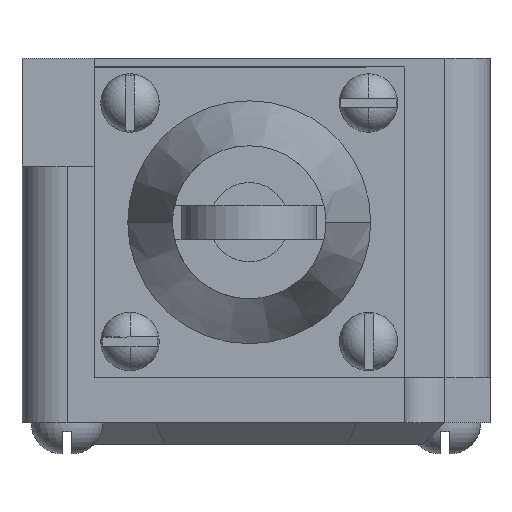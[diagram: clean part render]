
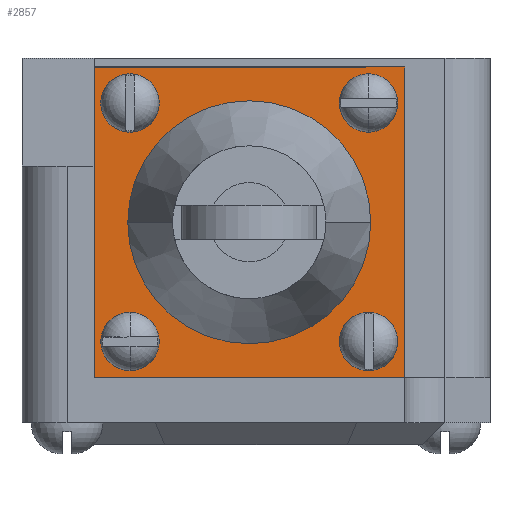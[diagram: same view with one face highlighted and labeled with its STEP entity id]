
A CAD part, front view. The second image highlights one B-rep face of the part: STEP entity #2857.
In plain terms, the highlighted planar face has unit normal (0, -1, 0).
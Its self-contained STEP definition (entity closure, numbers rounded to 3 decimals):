
#38 = CARTESIAN_POINT ( 'NONE',  ( -14., -40., 38.75 ) ) ;
#49 = CARTESIAN_POINT ( 'NONE',  ( -14., -40., 32.25 ) ) ;
#63 = CARTESIAN_POINT ( 'NONE',  ( -18., -40., 39.5 ) ) ;
#73 = CARTESIAN_POINT ( 'NONE',  ( -18., -40., 5. ) ) ;
#76 = CARTESIAN_POINT ( 'NONE',  ( 16.5, -40., 39.5 ) ) ;
#77 = CARTESIAN_POINT ( 'NONE',  ( 16.5, -40., 5. ) ) ;
#86 = CARTESIAN_POINT ( 'NONE',  ( 12.5, -40., 5.75 ) ) ;
#88 = CARTESIAN_POINT ( 'NONE',  ( -14., -40., 12.25 ) ) ;
#91 = CARTESIAN_POINT ( 'NONE',  ( -14., -40., 5.75 ) ) ;
#137 = CARTESIAN_POINT ( 'NONE',  ( 12.5, -40., 12.25 ) ) ;
#420 = CARTESIAN_POINT ( 'NONE',  ( 12.5, -40., 32.25 ) ) ;
#450 = CARTESIAN_POINT ( 'NONE',  ( 12.5, -40., 38.75 ) ) ;
#517 = AXIS2_PLACEMENT_3D ( 'NONE', #3321, #3322, #3318 ) ;
#565 = AXIS2_PLACEMENT_3D ( 'NONE', #1236, #1244, #1234 ) ;
#590 = AXIS2_PLACEMENT_3D ( 'NONE', #683, #682, #681 ) ;
#591 = AXIS2_PLACEMENT_3D ( 'NONE', #678, #677, #676 ) ;
#592 = AXIS2_PLACEMENT_3D ( 'NONE', #673, #672, #671 ) ;
#593 = AXIS2_PLACEMENT_3D ( 'NONE', #663, #662, #661 ) ;
#594 = AXIS2_PLACEMENT_3D ( 'NONE', #660, #659, #658 ) ;
#603 = AXIS2_PLACEMENT_3D ( 'NONE', #3509, #3510, #3511 ) ;
#606 = AXIS2_PLACEMENT_3D ( 'NONE', #3533, #3534, #3535 ) ;
#610 = AXIS2_PLACEMENT_3D ( 'NONE', #3575, #3576, #3577 ) ;
#658 = DIRECTION ( 'NONE',  ( 0., 0., 1. ) ) ;
#659 = DIRECTION ( 'NONE',  ( 0., -1., 0. ) ) ;
#660 = CARTESIAN_POINT ( 'NONE',  ( -14., -40., 9. ) ) ;
#661 = DIRECTION ( 'NONE',  ( 0., 0., 1. ) ) ;
#662 = DIRECTION ( 'NONE',  ( 0., -1., 0. ) ) ;
#663 = CARTESIAN_POINT ( 'NONE',  ( 12.5, -40., 35.5 ) ) ;
#666 = DIRECTION ( 'NONE',  ( 0., 0., -1. ) ) ;
#667 = CARTESIAN_POINT ( 'NONE',  ( -18., -40., 39.5 ) ) ;
#668 = DIRECTION ( 'NONE',  ( 1., 0., 0. ) ) ;
#669 = CARTESIAN_POINT ( 'NONE',  ( -18., -40., 5. ) ) ;
#670 = DIRECTION ( 'NONE',  ( 0., 0., 1. ) ) ;
#671 = DIRECTION ( 'NONE',  ( 0., 0., -1. ) ) ;
#672 = DIRECTION ( 'NONE',  ( 0., -1., 0. ) ) ;
#673 = CARTESIAN_POINT ( 'NONE',  ( -14., -40., 35.5 ) ) ;
#674 = CARTESIAN_POINT ( 'NONE',  ( 16.5, -40., 39.5 ) ) ;
#676 = DIRECTION ( 'NONE',  ( 0., 0., -1. ) ) ;
#677 = DIRECTION ( 'NONE',  ( 0., -1., 0. ) ) ;
#678 = CARTESIAN_POINT ( 'NONE',  ( 12.5, -40., 9. ) ) ;
#679 = DIRECTION ( 'NONE',  ( -1., 0., 0. ) ) ;
#680 = CARTESIAN_POINT ( 'NONE',  ( -18., -40., 39.5 ) ) ;
#681 = DIRECTION ( 'NONE',  ( 1., 0., 0. ) ) ;
#682 = DIRECTION ( 'NONE',  ( 0., -1., 0. ) ) ;
#683 = CARTESIAN_POINT ( 'NONE',  ( -0.75, -40., 22.25 ) ) ;
#1234 = DIRECTION ( 'NONE',  ( 0., 0., -1. ) ) ;
#1236 = CARTESIAN_POINT ( 'NONE',  ( 0., -40., 0. ) ) ;
#1237 = PLANE ( 'NONE',  #565 ) ;
#1244 = DIRECTION ( 'NONE',  ( 0., -1., 0. ) ) ;
#1762 = FACE_BOUND ( 'NONE', #3054, .T. ) ;
#1764 = FACE_BOUND ( 'NONE', #3043, .T. ) ;
#1766 = FACE_OUTER_BOUND ( 'NONE', #3055, .T. ) ;
#1767 = FACE_BOUND ( 'NONE', #3048, .T. ) ;
#1768 = FACE_BOUND ( 'NONE', #3053, .T. ) ;
#1769 = FACE_BOUND ( 'NONE', #3058, .T. ) ;
#1834 = CIRCLE ( 'NONE', #590, 13.5 ) ;
#1835 = CIRCLE ( 'NONE', #591, 3.25 ) ;
#1836 = LINE ( 'NONE', #674, #1842 ) ;
#1837 = CIRCLE ( 'NONE', #592, 3.25 ) ;
#1838 = LINE ( 'NONE', #680, #1840 ) ;
#1840 = VECTOR ( 'NONE', #679, 1000. ) ;
#1841 = LINE ( 'NONE', #669, #1844 ) ;
#1842 = VECTOR ( 'NONE', #670, 1000. ) ;
#1843 = LINE ( 'NONE', #667, #1846 ) ;
#1844 = VECTOR ( 'NONE', #668, 1000. ) ;
#1845 = CIRCLE ( 'NONE', #593, 3.25 ) ;
#1846 = VECTOR ( 'NONE', #666, 1000. ) ;
#1847 = CIRCLE ( 'NONE', #594, 3.25 ) ;
#1885 = CIRCLE ( 'NONE', #606, 3.25 ) ;
#1886 = CIRCLE ( 'NONE', #603, 3.25 ) ;
#1888 = CIRCLE ( 'NONE', #610, 3.25 ) ;
#2044 = CIRCLE ( 'NONE', #3234, 13.5 ) ;
#2287 = VERTEX_POINT ( 'NONE', #3354 ) ;
#2288 = VERTEX_POINT ( 'NONE', #3346 ) ;
#2398 = ORIENTED_EDGE ( 'NONE', *, *, #3175, .F. ) ;
#2399 = ORIENTED_EDGE ( 'NONE', *, *, #2933, .F. ) ;
#2400 = ORIENTED_EDGE ( 'NONE', *, *, #2934, .F. ) ;
#2401 = ORIENTED_EDGE ( 'NONE', *, *, #2966, .F. ) ;
#2402 = ORIENTED_EDGE ( 'NONE', *, *, #2935, .F. ) ;
#2403 = ORIENTED_EDGE ( 'NONE', *, *, #2444, .F. ) ;
#2404 = ORIENTED_EDGE ( 'NONE', *, *, #2936, .T. ) ;
#2405 = ORIENTED_EDGE ( 'NONE', *, *, #2937, .T. ) ;
#2406 = ORIENTED_EDGE ( 'NONE', *, *, #2938, .T. ) ;
#2407 = ORIENTED_EDGE ( 'NONE', *, *, #2939, .T. ) ;
#2408 = ORIENTED_EDGE ( 'NONE', *, *, #2976, .F. ) ;
#2409 = ORIENTED_EDGE ( 'NONE', *, *, #2940, .F. ) ;
#2410 = ORIENTED_EDGE ( 'NONE', *, *, #2970, .F. ) ;
#2411 = ORIENTED_EDGE ( 'NONE', *, *, #2941, .F. ) ;
#2444 = EDGE_CURVE ( 'NONE', #2685, #2692, #4254, .T. ) ;
#2648 = VERTEX_POINT ( 'NONE', #137 ) ;
#2651 = VERTEX_POINT ( 'NONE', #91 ) ;
#2652 = VERTEX_POINT ( 'NONE', #88 ) ;
#2654 = VERTEX_POINT ( 'NONE', #86 ) ;
#2660 = VERTEX_POINT ( 'NONE', #77 ) ;
#2661 = VERTEX_POINT ( 'NONE', #76 ) ;
#2662 = VERTEX_POINT ( 'NONE', #73 ) ;
#2672 = VERTEX_POINT ( 'NONE', #63 ) ;
#2685 = VERTEX_POINT ( 'NONE', #49 ) ;
#2692 = VERTEX_POINT ( 'NONE', #38 ) ;
#2718 = VERTEX_POINT ( 'NONE', #420 ) ;
#2719 = VERTEX_POINT ( 'NONE', #450 ) ;
#2857 = ADVANCED_FACE ( 'NONE', ( #1762, #1768, #1766, #1767, #1764, #1769 ), #1237, .T. ) ;
#2933 = EDGE_CURVE ( 'NONE', #2288, #2287, #1834, .T. ) ;
#2934 = EDGE_CURVE ( 'NONE', #2648, #2654, #1835, .T. ) ;
#2935 = EDGE_CURVE ( 'NONE', #2692, #2685, #1837, .T. ) ;
#2936 = EDGE_CURVE ( 'NONE', #2661, #2672, #1838, .T. ) ;
#2937 = EDGE_CURVE ( 'NONE', #2660, #2661, #1836, .T. ) ;
#2938 = EDGE_CURVE ( 'NONE', #2662, #2660, #1841, .T. ) ;
#2939 = EDGE_CURVE ( 'NONE', #2672, #2662, #1843, .T. ) ;
#2940 = EDGE_CURVE ( 'NONE', #2719, #2718, #1845, .T. ) ;
#2941 = EDGE_CURVE ( 'NONE', #2652, #2651, #1847, .T. ) ;
#2966 = EDGE_CURVE ( 'NONE', #2654, #2648, #1886, .T. ) ;
#2970 = EDGE_CURVE ( 'NONE', #2651, #2652, #1885, .T. ) ;
#2976 = EDGE_CURVE ( 'NONE', #2718, #2719, #1888, .T. ) ;
#3043 = EDGE_LOOP ( 'NONE', ( #2401, #2400 ) ) ;
#3048 = EDGE_LOOP ( 'NONE', ( #2403, #2402 ) ) ;
#3053 = EDGE_LOOP ( 'NONE', ( #2409, #2408 ) ) ;
#3054 = EDGE_LOOP ( 'NONE', ( #2411, #2410 ) ) ;
#3055 = EDGE_LOOP ( 'NONE', ( #2407, #2406, #2405, #2404 ) ) ;
#3058 = EDGE_LOOP ( 'NONE', ( #2399, #2398 ) ) ;
#3175 = EDGE_CURVE ( 'NONE', #2287, #2288, #2044, .T. ) ;
#3234 = AXIS2_PLACEMENT_3D ( 'NONE', #3961, #3962, #3963 ) ;
#3318 = DIRECTION ( 'NONE',  ( 0., 0., -1. ) ) ;
#3321 = CARTESIAN_POINT ( 'NONE',  ( -14., -40., 35.5 ) ) ;
#3322 = DIRECTION ( 'NONE',  ( 0., -1., 0. ) ) ;
#3346 = CARTESIAN_POINT ( 'NONE',  ( -14.25, -40., 22.25 ) ) ;
#3354 = CARTESIAN_POINT ( 'NONE',  ( 12.75, -40., 22.25 ) ) ;
#3509 = CARTESIAN_POINT ( 'NONE',  ( 12.5, -40., 9. ) ) ;
#3510 = DIRECTION ( 'NONE',  ( 0., -1., 0. ) ) ;
#3511 = DIRECTION ( 'NONE',  ( 0., 0., -1. ) ) ;
#3533 = CARTESIAN_POINT ( 'NONE',  ( -14., -40., 9. ) ) ;
#3534 = DIRECTION ( 'NONE',  ( 0., -1., 0. ) ) ;
#3535 = DIRECTION ( 'NONE',  ( 0., 0., 1. ) ) ;
#3575 = CARTESIAN_POINT ( 'NONE',  ( 12.5, -40., 35.5 ) ) ;
#3576 = DIRECTION ( 'NONE',  ( 0., -1., 0. ) ) ;
#3577 = DIRECTION ( 'NONE',  ( 0., 0., 1. ) ) ;
#3961 = CARTESIAN_POINT ( 'NONE',  ( -0.75, -40., 22.25 ) ) ;
#3962 = DIRECTION ( 'NONE',  ( 0., -1., 0. ) ) ;
#3963 = DIRECTION ( 'NONE',  ( 1., 0., 0. ) ) ;
#4254 = CIRCLE ( 'NONE', #517, 3.25 ) ;
